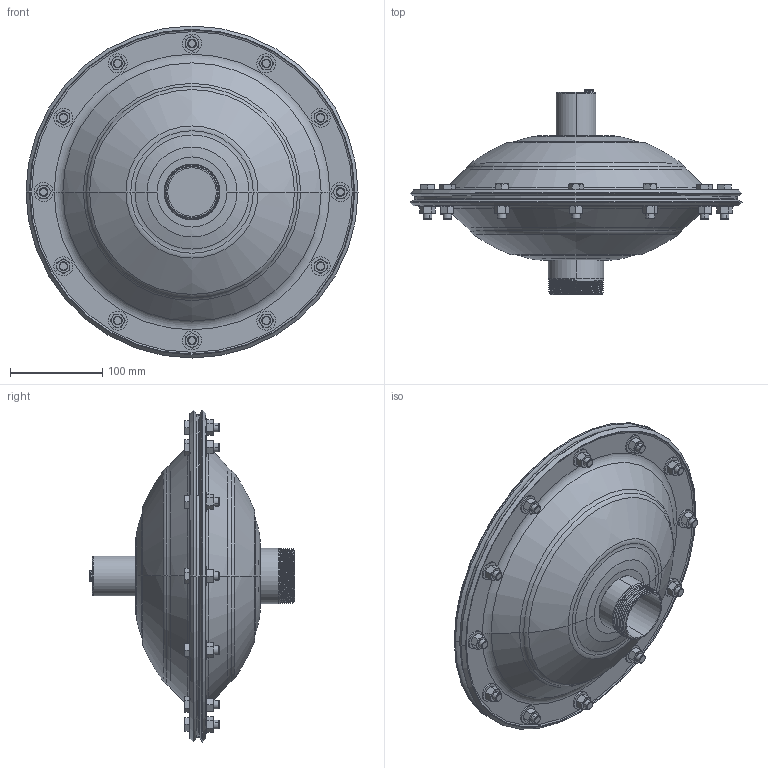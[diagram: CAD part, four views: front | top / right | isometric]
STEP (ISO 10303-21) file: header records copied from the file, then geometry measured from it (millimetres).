
FILE_DESCRIPTION (( 'STEP AP203' ), '1' );
FILE_NAME ('ISD820.STEP', '2022-07-04T17:24:19', ( '' ), ( '' ), 'SwSTEP 2.0', 'SolidWorks 2019', '' );
FILE_SCHEMA (( 'CONFIG_CONTROL_DESIGN' ));
Length unit declared in the file: inch
Products named in the file (1): ISD820
Bounding box: 360.68 x 223.55 x 360.68 mm (x, y, z)
Volume: 6263017.7 mm3; surface area: 348650.3 mm2
Topology: 1 solids, 1 shells, 1042 faces, 2330 edges, 1410 vertices
Faces by surface type: plane 345, cone 298, cylinder 281, torus 99, bspline 19
Entity records: 54660 total; most frequent: CARTESIAN_POINT 32001, DIRECTION 4705, ORIENTED_EDGE 4660, EDGE_CURVE 2330, AXIS2_PLACEMENT_3D 2004, VERTEX_POINT 1410, EDGE_LOOP 1186, FACE_OUTER_BOUND 1042
